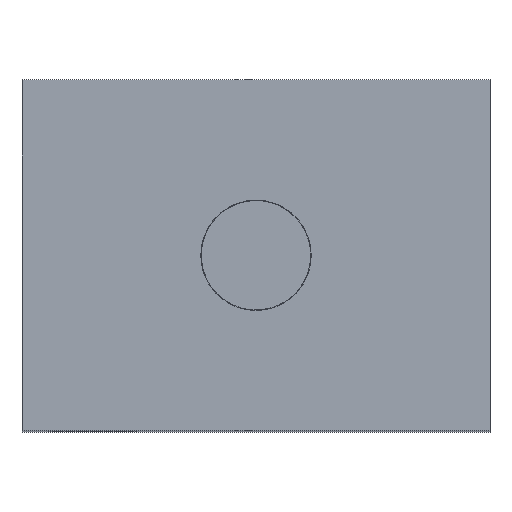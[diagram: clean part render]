
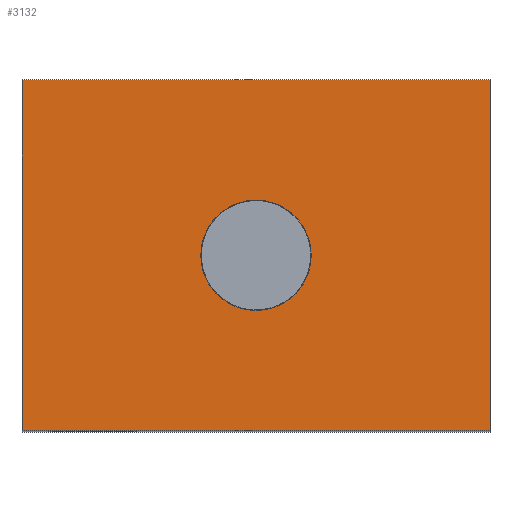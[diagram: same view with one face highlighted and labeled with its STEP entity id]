
A CAD part, top view. The second image highlights one B-rep face of the part: STEP entity #3132.
In plain terms, the highlighted planar face has unit normal (0, 0, 1).
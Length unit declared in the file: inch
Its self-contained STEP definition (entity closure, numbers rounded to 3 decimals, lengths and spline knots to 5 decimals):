
#78=CIRCLE('',#3281,0.118);
#222=FACE_BOUND('',#727,.T.);
#223=FACE_BOUND('',#728,.T.);
#727=EDGE_LOOP('',(#2794));
#728=EDGE_LOOP('',(#2795,#2796,#2797,#2798));
#879=LINE('',#4615,#1145);
#1073=LINE('',#5453,#1339);
#1077=LINE('',#5642,#1343);
#1078=LINE('',#5645,#1344);
#1145=VECTOR('',#3480,0.75);
#1339=VECTOR('',#3804,0.75);
#1343=VECTOR('',#3868,1.);
#1344=VECTOR('',#3873,1.);
#1419=VERTEX_POINT('',#4612);
#1420=VERTEX_POINT('',#4614);
#1580=VERTEX_POINT('',#5450);
#1581=VERTEX_POINT('',#5452);
#1593=VERTEX_POINT('',#5520);
#1751=EDGE_CURVE('',#1419,#1420,#879,.T.);
#1990=EDGE_CURVE('',#1580,#1581,#1073,.T.);
#2005=EDGE_CURVE('',#1593,#1593,#78,.T.);
#2011=EDGE_CURVE('',#1581,#1419,#1077,.T.);
#2012=EDGE_CURVE('',#1420,#1580,#1078,.T.);
#2794=ORIENTED_EDGE('',*,*,#2005,.T.);
#2795=ORIENTED_EDGE('',*,*,#2012,.F.);
#2796=ORIENTED_EDGE('',*,*,#1751,.F.);
#2797=ORIENTED_EDGE('',*,*,#2011,.F.);
#2798=ORIENTED_EDGE('',*,*,#1990,.F.);
#2973=PLANE('',#3295);
#3132=ADVANCED_FACE('',(#222,#223),#2973,.T.);
#3281=AXIS2_PLACEMENT_3D('',#5521,#3844,#3845);
#3295=AXIS2_PLACEMENT_3D('',#5646,#3874,#3875);
#3480=DIRECTION('',(0.,1.,0.));
#3804=DIRECTION('',(0.,-1.,0.));
#3844=DIRECTION('center_axis',(0.,0.,-1.));
#3845=DIRECTION('ref_axis',(1.,0.,0.));
#3868=DIRECTION('',(-1.,0.,0.));
#3873=DIRECTION('',(1.,0.,0.));
#3874=DIRECTION('center_axis',(0.,0.,1.));
#3875=DIRECTION('ref_axis',(1.,0.,0.));
#4612=CARTESIAN_POINT('',(-0.5,-0.375,0.));
#4614=CARTESIAN_POINT('',(-0.5,0.375,0.));
#4615=CARTESIAN_POINT('',(-0.5,-0.375,0.));
#5450=CARTESIAN_POINT('',(0.5,0.375,0.));
#5452=CARTESIAN_POINT('',(0.5,-0.375,0.));
#5453=CARTESIAN_POINT('',(0.5,0.375,0.));
#5520=CARTESIAN_POINT('',(-0.118,0.,0.));
#5521=CARTESIAN_POINT('Origin',(0.,0.,0.));
#5642=CARTESIAN_POINT('',(0.5,-0.375,0.));
#5645=CARTESIAN_POINT('',(-0.5,0.375,0.));
#5646=CARTESIAN_POINT('Origin',(0.,0.,
0.));
